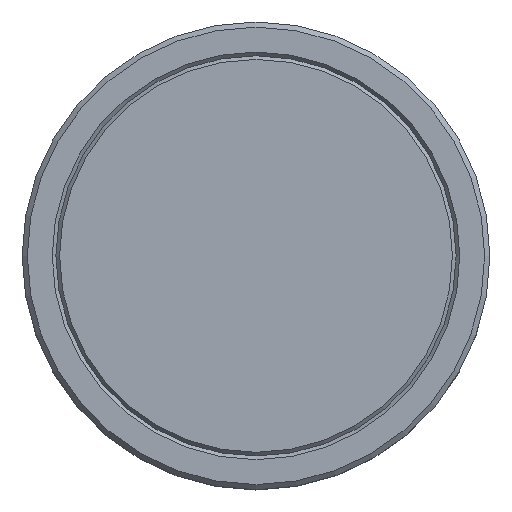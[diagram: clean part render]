
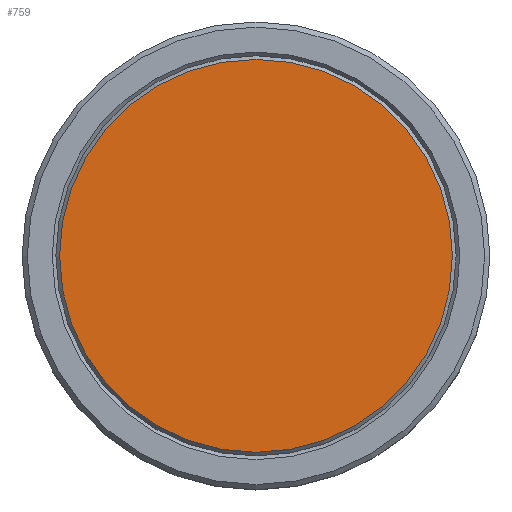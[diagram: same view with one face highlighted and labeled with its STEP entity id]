
A CAD part, top view. The second image highlights one B-rep face of the part: STEP entity #759.
In plain terms, the highlighted planar face has unit normal (0, 0, 1).
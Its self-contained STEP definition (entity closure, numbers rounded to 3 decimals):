
#687 = CONICAL_SURFACE('',#688,7.54,0.755);
#688 = AXIS2_PLACEMENT_3D('',#689,#690,#691);
#689 = CARTESIAN_POINT('',(0.,0.,20.52));
#690 = DIRECTION('',(-0.,-0.,-1.));
#691 = DIRECTION('',(1.,0.,0.));
#704 = EDGE_CURVE('',#705,#705,#707,.T.);
#705 = VERTEX_POINT('',#706);
#706 = CARTESIAN_POINT('',(7.559,0.,20.5));
#707 = SURFACE_CURVE('',#708,(#713,#720),.PCURVE_S1.);
#708 = CIRCLE('',#709,7.559);
#709 = AXIS2_PLACEMENT_3D('',#710,#711,#712);
#710 = CARTESIAN_POINT('',(0.,0.,20.5));
#711 = DIRECTION('',(0.,0.,-1.));
#712 = DIRECTION('',(1.,0.,0.));
#713 = PCURVE('',#687,#714);
#714 = DEFINITIONAL_REPRESENTATION('',(#715),#719);
#715 = LINE('',#716,#717);
#716 = CARTESIAN_POINT('',(-6.283,0.02));
#717 = VECTOR('',#718,1.);
#718 = DIRECTION('',(1.,-0.));
#719 = ( GEOMETRIC_REPRESENTATION_CONTEXT(2) 
PARAMETRIC_REPRESENTATION_CONTEXT() REPRESENTATION_CONTEXT('2D SPACE',''
  ) );
#720 = PCURVE('',#721,#726);
#721 = PLANE('',#722);
#722 = AXIS2_PLACEMENT_3D('',#723,#724,#725);
#723 = CARTESIAN_POINT('',(0.,0.,20.5));
#724 = DIRECTION('',(0.,0.,1.));
#725 = DIRECTION('',(1.,0.,-0.));
#726 = DEFINITIONAL_REPRESENTATION('',(#727),#735);
#727 = ( BOUNDED_CURVE() B_SPLINE_CURVE(2,(#728,#729,#730,#731,#732,#733
,#734),.UNSPECIFIED.,.T.,.F.) B_SPLINE_CURVE_WITH_KNOTS((1,2,2,2,2,1),(
    -2.094,0.,2.094,4.189,6.283,
8.378),.UNSPECIFIED.) CURVE() GEOMETRIC_REPRESENTATION_ITEM() 
RATIONAL_B_SPLINE_CURVE((1.,0.5,1.,0.5,1.,0.5,1.)) REPRESENTATION_ITEM(
  '') );
#728 = CARTESIAN_POINT('',(7.559,0.));
#729 = CARTESIAN_POINT('',(7.559,-13.092));
#730 = CARTESIAN_POINT('',(-3.779,-6.546));
#731 = CARTESIAN_POINT('',(-15.118,0.));
#732 = CARTESIAN_POINT('',(-3.779,6.546));
#733 = CARTESIAN_POINT('',(7.559,13.092));
#734 = CARTESIAN_POINT('',(7.559,0.));
#735 = ( GEOMETRIC_REPRESENTATION_CONTEXT(2) 
PARAMETRIC_REPRESENTATION_CONTEXT() REPRESENTATION_CONTEXT('2D SPACE',''
  ) );
#759 = ADVANCED_FACE('',(#760),#721,.T.);
#760 = FACE_BOUND('',#761,.T.);
#761 = EDGE_LOOP('',(#762));
#762 = ORIENTED_EDGE('',*,*,#704,.F.);
